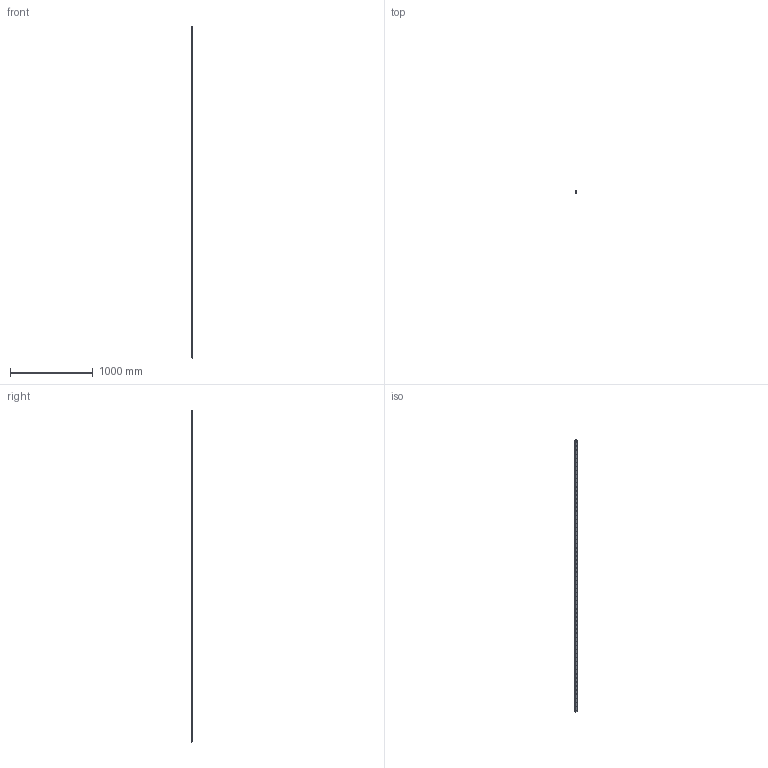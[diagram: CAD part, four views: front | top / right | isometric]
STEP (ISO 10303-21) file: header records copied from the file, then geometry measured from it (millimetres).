
FILE_DESCRIPTION (( 'STEP AP214' ), '1' );
FILE_NAME ('R20-4000.STEP', '2019-05-31T07:35:29', ( '' ), ( '' ), 'SwSTEP 2.0', 'SolidWorks 2016', '' );
FILE_SCHEMA (( 'AUTOMOTIVE_DESIGN' ));
Length unit declared in the file: millimetre
Products named in the file (1): R20-4000
Bounding box: 20 x 17.5 x 4000 mm (x, y, z)
Volume: 1201846.5 mm3; surface area: 333009.7 mm2
Topology: 1 solids, 1 shells, 361 faces, 876 edges, 584 vertices
Faces by surface type: cylinder 274, plane 87
Entity records: 15151 total; most frequent: DIRECTION 2148, CARTESIAN_POINT 1822, ORIENTED_EDGE 1752, AXIS2_PLACEMENT_3D 910, EDGE_CURVE 876, VERTEX_POINT 584, EDGE_LOOP 562, CIRCLE 548
